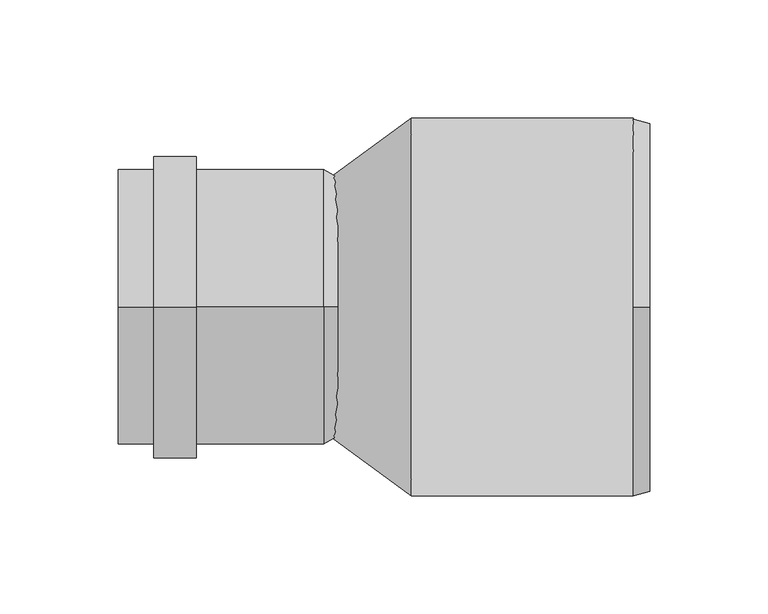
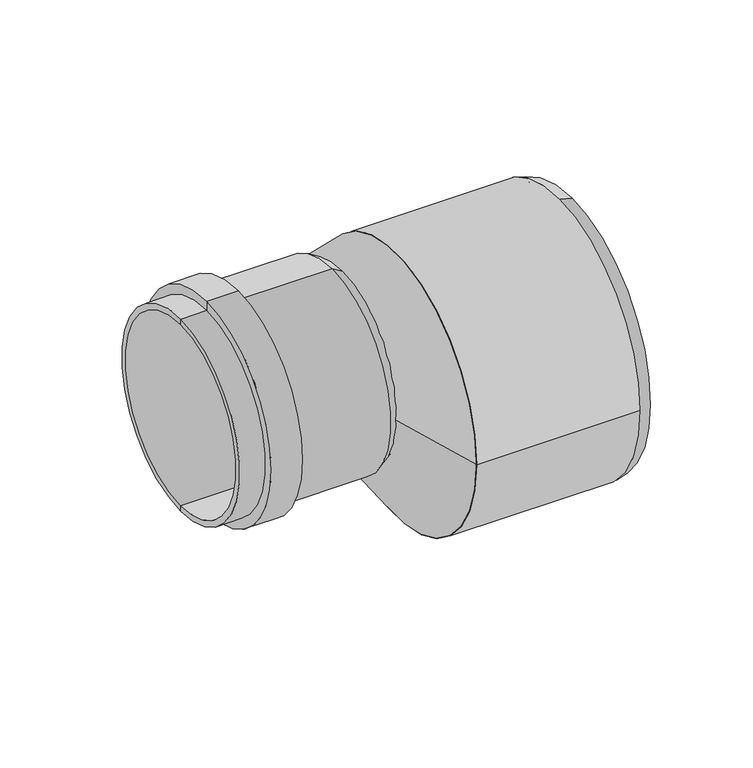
"""IFC4 building model written with IfcOpenShell, lengths in millimetres: pipe fitting geometry, OSMA_KG2000_PPKGR : Redukce nesouosá dlouhá."""

import ifcopenshell
import ifcopenshell.guid

model = None  # the IFC model being written
_history = None  # IfcOwnerHistory: only IFC2X3 demands one
_inside = {}  # id of a spatial element -> (the spatial element, [elements in it])
_under = {}  # id of a project, library or spatial element -> (it, [spatial elements below it])
_declared = {}  # id of a project -> (the project, [libraries it declares])
_typed = {}  # id of a type object -> (the type object, [elements of that type])
_made_of = {}  # id of a material, layer set ... -> (it, [elements and type objects made of it])


def new_model(schema):
    """Start an empty IFC model of exactly this schema.

    Asked for "IFC4X3", IfcOpenShell would pick the latest addendum, in which some entities
    have other attributes; the version numbers below select the first issue.
    IFC2X3 requires an IfcOwnerHistory on every rooted entity: one is made here for all.
    """
    global model, _history
    if schema == "IFC4X3":
        model = ifcopenshell.file(schema_version=(4, 3, 0, 0))
    else:
        model = ifcopenshell.file(schema=schema)
    _inside.clear()
    _under.clear()
    _declared.clear()
    _typed.clear()
    _made_of.clear()
    _history = None
    if model.schema == "IFC2X3":
        org = make("IfcOrganization", Name="unknown")
        user = make(
            "IfcPersonAndOrganization",
            ThePerson=make("IfcPerson", FamilyName="unknown"),
            TheOrganization=org,
        )
        app = make(
            "IfcApplication",
            ApplicationDeveloper=org,
            Version="unknown",
            ApplicationFullName="unknown",
            ApplicationIdentifier="unknown",
        )
        _history = make(
            "IfcOwnerHistory",
            OwningUser=user,
            OwningApplication=app,
            ChangeAction="ADDED",
            CreationDate=0,
        )
    return model


def make(cls, **values):
    """One entity of the class cls with the attributes given. An attribute that is None is left unset."""
    return model.create_entity(
        cls, **{name: value for name, value in values.items() if value is not None}
    )


def rooted(cls, **values):
    """An entity with a GlobalId (a new one), such as an element, a storey or a relation."""
    return make(cls, GlobalId=ifcopenshell.guid.new(), OwnerHistory=_history, **values)


def si_unit(unit_type, name, prefix=None):
    """IfcSIUnit, for example si_unit("LENGTHUNIT", "METRE", prefix="MILLI")."""
    return make("IfcSIUnit", UnitType=unit_type, Prefix=prefix, Name=name)


def assignment(units):
    """IfcUnitAssignment: the units of a project."""
    return None if units is None else make("IfcUnitAssignment", Units=units)


def point(xyz):
    """IfcCartesianPoint."""
    return None if xyz is None else make("IfcCartesianPoint", Coordinates=xyz)


def direction(xyz):
    """IfcDirection."""
    return None if xyz is None else make("IfcDirection", DirectionRatios=xyz)


def frame(location, z_axis=None, x_axis=None):
    """IfcAxis2Placement3D, a coordinate frame: its origin and axes. An axis left out is left unset."""
    return make(
        "IfcAxis2Placement3D",
        Location=point(location),
        Axis=direction(z_axis),
        RefDirection=direction(x_axis),
    )


def origin():
    """The frame at (0, 0, 0) with its axes left unset."""
    return frame((0.0, 0.0, 0.0))


def place(relative_to, where):
    """IfcLocalPlacement: puts the frame where relative to a parent placement (None: the world)."""
    return make(
        "IfcLocalPlacement", PlacementRelTo=relative_to, RelativePlacement=where
    )


def context(
    kind, dimensions, precision=None, world=None, true_north=None, identifier=None
):
    """IfcGeometricRepresentationContext, for example the 3D "Model" context."""
    return make(
        "IfcGeometricRepresentationContext",
        ContextIdentifier=identifier,
        ContextType=kind,
        CoordinateSpaceDimension=dimensions,
        Precision=precision,
        WorldCoordinateSystem=world,
        TrueNorth=true_north,
    )


def project(units=None, contexts=None):
    """IfcProject with its units and contexts."""
    return rooted(
        "IfcProject",
        Name="project",
        RepresentationContexts=contexts,
        UnitsInContext=assignment(units),
    )


def spatial(cls, under=None, at=None, **own):
    """A site, building, storey or space (cls), placed at a placement, below another one or the project."""
    s = rooted(cls, ObjectPlacement=at, **own)
    if under is not None:
        _under.setdefault(under.id(), (under, []))[1].append(s)
    return s


def polyline(points):
    """IfcPolyline through the points."""
    return make("IfcPolyline", Points=[point(p) for p in points])


def circle_curve(where, radius):
    """IfcCircle in the frame where."""
    return make("IfcCircle", Position=where, Radius=radius)


def shape(context_of_items, identifier, shape_type, items):
    """IfcShapeRepresentation: the items that make up one representation, for example the "Body"."""
    return make(
        "IfcShapeRepresentation",
        ContextOfItems=context_of_items,
        RepresentationIdentifier=identifier,
        RepresentationType=shape_type,
        Items=items,
    )


def source(mapping_origin, context_of_items, identifier, shape_type, items):
    """IfcRepresentationMap: a shape defined once, which mapped items show again and again."""
    return make(
        "IfcRepresentationMap",
        MappingOrigin=mapping_origin,
        MappedRepresentation=shape(context_of_items, identifier, shape_type, items),
    )


def transform(
    local_origin,
    x_axis=None,
    y_axis=None,
    z_axis=None,
    scale=None,
    scale2=None,
    scale3=None,
    uniform=True,
):
    """IfcCartesianTransformationOperator3D, or its non-uniform kind. x_axis, y_axis, z_axis: its Axis1, 2, 3."""
    if uniform:
        return make(
            "IfcCartesianTransformationOperator3D",
            Axis1=direction(x_axis),
            Axis2=direction(y_axis),
            LocalOrigin=point(local_origin),
            Scale=scale,
            Axis3=direction(z_axis),
        )
    return make(
        "IfcCartesianTransformationOperator3DnonUniform",
        Axis1=direction(x_axis),
        Axis2=direction(y_axis),
        LocalOrigin=point(local_origin),
        Scale=scale,
        Axis3=direction(z_axis),
        Scale2=scale2,
        Scale3=scale3,
    )


def mapped(mapping_source, mapping_target):
    """IfcMappedItem: shows the shape of a source again, moved by a transform."""
    return make(
        "IfcMappedItem", MappingSource=mapping_source, MappingTarget=mapping_target
    )


def made_of(thing, what):
    """Note that an element or type object is made of a material, layer set ...; save() writes the relation."""
    if what is not None:
        _made_of.setdefault(what.id(), (what, []))[1].append(thing)
    return thing


def element(
    cls,
    number,
    at=None,
    inside=None,
    cuts=None,
    type_object=None,
    material=None,
    context=None,
    identifier="Body",
    shape_type=None,
    held_by="IfcProductDefinitionShape",
    body=None,
    shapes=None,
    **own,
):
    """One element of the class cls, such as IfcWall. Its Tag is "e" and its number.

    at: its placement. inside: the storey or other place that contains it. cuts: it is an
    opening in that element (IfcRelVoidsElement). A single representation is given by context,
    identifier, shape_type and body (its items); several are given by shapes. held_by: the class
    of the entity that holds the representations. save() writes the other relations.
    """
    e = rooted(cls, Tag="e%d" % number, ObjectPlacement=at, **own)
    if body is not None:
        shapes = [shape(context, identifier, shape_type, body)]
    if shapes is not None:
        e.Representation = make(held_by, Representations=shapes)
    if inside is not None:
        _inside.setdefault(inside.id(), (inside, []))[1].append(e)
    if cuts is not None:
        rooted(
            "IfcRelVoidsElement", RelatingBuildingElement=cuts, RelatedOpeningElement=e
        )
    if type_object is not None:
        _typed.setdefault(type_object.id(), (type_object, []))[1].append(e)
    return made_of(e, material)


def aggregate(whole, parts):
    """IfcRelAggregates: a whole, such as a stair, and the parts it consists of."""
    return rooted("IfcRelAggregates", RelatingObject=whole, RelatedObjects=parts)


def save(model, path):
    """Write the relations noted so far, then the file.

    IfcRelAggregates (storeys below a building ...), IfcRelContainedInSpatialStructure (elements
    in a storey), IfcRelDefinesByType, IfcRelAssociatesMaterial and IfcRelDeclares: one each for
    every whole, place, type object, material and project.
    """
    for whole, parts in _under.values():
        aggregate(whole, parts)
    for where, things in _inside.values():
        rooted(
            "IfcRelContainedInSpatialStructure",
            RelatedElements=things,
            RelatingStructure=where,
        )
    for kind, things in _typed.values():
        rooted("IfcRelDefinesByType", RelatedObjects=things, RelatingType=kind)
    for what, things in _made_of.values():
        rooted("IfcRelAssociatesMaterial", RelatedObjects=things, RelatingMaterial=what)
    for by, libraries in _declared.values():
        rooted("IfcRelDeclares", RelatingContext=by, RelatedDefinitions=libraries)
    model.write(path)


def plane_surface(at):
    """IfcPlane: the flat surface through the origin of the frame at, square to its z axis."""
    return make("IfcPlane", Position=at)


def cylinder_surface(at, radius):
    """IfcCylindricalSurface: all points at the distance radius from the z axis of the frame at."""
    return make("IfcCylindricalSurface", Position=at, Radius=radius)


def revolved_surface(curve, axis_point, axis_direction):
    """IfcSurfaceOfRevolution: the curve turned about the line through axis_point along axis_direction."""
    return make(
        "IfcSurfaceOfRevolution",
        SweptCurve=make("IfcArbitraryOpenProfileDef", ProfileType="CURVE", Curve=curve),
        AxisPosition=make("IfcAxis1Placement", Location=point(axis_point), Axis=direction(axis_direction)),
    )


def spline_surface(u_degree, v_degree, points, u_multiplicities, v_multiplicities, u_knots, v_knots, weights=None):
    """IfcBSplineSurfaceWithKnots; with weights, IfcRationalBSplineSurfaceWithKnots. points: one row for each step in u."""
    own = dict(
        UDegree=u_degree,
        VDegree=v_degree,
        ControlPointsList=[[point(p) for p in row] for row in points],
        SurfaceForm="UNSPECIFIED",
        UClosed=False,
        VClosed=False,
        SelfIntersect=False,
        UMultiplicities=u_multiplicities,
        VMultiplicities=v_multiplicities,
        UKnots=u_knots,
        VKnots=v_knots,
        KnotSpec="UNSPECIFIED",
    )
    if weights is None:
        return make("IfcBSplineSurfaceWithKnots", **own)
    return make("IfcRationalBSplineSurfaceWithKnots", WeightsData=weights, **own)


def advanced_brep(points, edges, surfaces, faces):
    """IfcAdvancedBrep: a solid bounded by faces that lie on surfaces and meet in shared edges.

    An edge is (start, end): straight between two places in points (the first is 0);
    or (start, end, curve); or (start, end, curve, False) where it runs against its curve.
    A face is (place in surfaces, loops), or (place, loops, False) where it looks against
    its surface's normal. A loop lists edges by number (the first is 1), with a minus sign
    where the edge is run from its end to its start. The first loop is the outer one.
    """
    corners = [point(p) for p in points]
    vertices = [make("IfcVertexPoint", VertexGeometry=c) for c in corners]
    made = []
    for start, end, *more in edges:
        made.append(
            make(
                "IfcEdgeCurve",
                EdgeStart=vertices[start],
                EdgeEnd=vertices[end],
                EdgeGeometry=more[0] if more else make("IfcPolyline", Points=[corners[start], corners[end]]),
                SameSense=more[1] if len(more) > 1 else True,
            )
        )
    hull = []
    for where, loops, *sense in faces:
        bounds = []
        for j, loop in enumerate(loops):
            ring = [make("IfcOrientedEdge", EdgeElement=made[abs(k) - 1], Orientation=k > 0) for k in loop]
            bounds.append(
                make(
                    "IfcFaceOuterBound" if j == 0 else "IfcFaceBound",
                    Bound=make("IfcEdgeLoop", EdgeList=ring),
                    Orientation=True,
                )
            )
        hull.append(make("IfcAdvancedFace", Bounds=bounds, FaceSurface=surfaces[where], SameSense=sense[0] if sense else True))
    return make("IfcAdvancedBrep", Outer=make("IfcClosedShell", CfsFaces=hull))


def pipe_fitting_a38689ed(model_context):
    return source(origin(), model_context, "Body", "AdvancedBrep", [
        advanced_brep(
        [(-3.0, 0.0, 55.0), (-3.0, 0.0, -55.0), (-90.0, 0.0, -55.0), (-90.0, 0.0, 55.0), (-57.0, 0.0, 58.4), (-57.0, 0.0, -58.4), (-3.0, 0.0, -58.4), (-3.0, 0.0, 58.4), (-57.0, 0.0, -64.0), (-57.0, 0.0, 64.0), (-75.0, 0.0, -64.0), (-75.0, 0.0, 64.0), (-75.0, 0.0, -58.4), (-75.0, 0.0, 58.4), (-90.0, 0.0, -58.4), (-90.0, 0.0, 58.4), (3.0, 0.0, 51.6), (3.0, 0.0, -51.6), (3.0, 0.0, 55.0), (3.0, 0.0, -55.0)],
        [
            (0, 1, circle_curve(frame((-3.0, 0.0, 0.0), z_axis=(1.0, 0.0, 0.0), x_axis=(0.0, 0.0, -1.0)), 55.0)),
            (1, 2),
            (2, 3, circle_curve(frame((-90.0, 0.0, 0.0), z_axis=(-1.0, 0.0, 0.0), x_axis=(0.0, 0.0, -1.0)), 55.0)),
            (3, 0),
            (1, 0, circle_curve(frame((-3.0, 0.0, 0.0), z_axis=(1.0, 0.0, 0.0), x_axis=(0.0, 0.0, -1.0)), 55.0)),
            (3, 2, circle_curve(frame((-90.0, 0.0, 0.0), z_axis=(-1.0, 0.0, 0.0), x_axis=(0.0, 0.0, -1.0)), 55.0)),
            (4, 5, circle_curve(frame((-57.0, 0.0, 0.0), z_axis=(1.0, 0.0, 0.0), x_axis=(0.0, 0.0, -1.0)), 58.4)),
            (5, 6),
            (6, 7, circle_curve(frame((-3.0, 0.0, 0.0), z_axis=(-1.0, 0.0, 0.0), x_axis=(0.0, 0.0, -1.0)), 58.4)),
            (7, 4),
            (8, 9, circle_curve(frame((-57.0, 0.0, 0.0), z_axis=(1.0, 0.0, 0.0), x_axis=(0.0, 0.0, -1.0)), 64.0)),
            (9, 4),
            (4, 5, circle_curve(frame((-57.0, 0.0, 0.0), z_axis=(-1.0, 0.0, 0.0), x_axis=(0.0, 0.0, -1.0)), 58.4)),
            (5, 8),
            (10, 11, circle_curve(frame((-75.0, 0.0, 0.0), z_axis=(1.0, 0.0, 0.0), x_axis=(0.0, 0.0, -1.0)), 64.0)),
            (11, 9),
            (8, 10),
            (12, 13, circle_curve(frame((-75.0, 0.0, 0.0), z_axis=(1.0, 0.0, 0.0), x_axis=(0.0, 0.0, -1.0)), 58.4)),
            (13, 11),
            (10, 12),
            (14, 15, circle_curve(frame((-90.0, 0.0, 0.0), z_axis=(1.0, 0.0, 0.0), x_axis=(0.0, 0.0, -1.0)), 58.4)),
            (15, 13),
            (12, 14),
            (16, 17, circle_curve(frame((3.0, 0.0, 0.0), z_axis=(1.0, 0.0, 0.0), x_axis=(0.0, 0.0, -1.0)), 51.6)),
            (17, 1),
            (0, 16),
            (17, 16, circle_curve(frame((3.0, 0.0, 0.0), z_axis=(1.0, 0.0, 0.0), x_axis=(0.0, 0.0, -1.0)), 51.6)),
            (18, 19, circle_curve(frame((3.0, 0.0, 0.0), z_axis=(1.0, 0.0, 0.0), x_axis=(0.0, 0.0, -1.0)), 55.0)),
            (19, 17),
            (16, 18),
            (19, 18, circle_curve(frame((3.0, 0.0, 0.0), z_axis=(1.0, 0.0, 0.0), x_axis=(0.0, 0.0, -1.0)), 55.0)),
            (6, 19),
            (18, 7),
            (6, 7, circle_curve(frame((-3.0, 0.0, 0.0), z_axis=(1.0, 0.0, 0.0), x_axis=(0.0, 0.0, -1.0)), 58.4)),
            (9, 8, circle_curve(frame((-57.0, 0.0, 0.0), z_axis=(1.0, 0.0, 0.0), x_axis=(0.0, 0.0, -1.0)), 64.0)),
            (11, 10, circle_curve(frame((-75.0, 0.0, 0.0), z_axis=(1.0, 0.0, 0.0), x_axis=(0.0, 0.0, -1.0)), 64.0)),
            (13, 12, circle_curve(frame((-75.0, 0.0, 0.0), z_axis=(1.0, 0.0, 0.0), x_axis=(0.0, 0.0, -1.0)), 58.4)),
            (15, 14, circle_curve(frame((-90.0, 0.0, 0.0), z_axis=(1.0, 0.0, 0.0), x_axis=(0.0, 0.0, -1.0)), 58.4)),
            (2, 14),
            (15, 3),
        ],
        [
            revolved_surface(polyline([(-90.0, 0.0, -55.0), (-3.0, 0.0, -55.0)]), (-2759.4742198, 0.0, 0.0), (-1.0, 0.0, 0.0)),
            cylinder_surface(frame((-2759.4742198, 0.0, 0.0), z_axis=(-1.0, 0.0, 0.0), x_axis=(0.0, 0.0, -1.0)), 58.4),
            plane_surface(frame((-57.0, 0.0, 0.0), z_axis=(1.0, 0.0, 0.0), x_axis=(0.0, 0.0, -1.0))),
            cylinder_surface(frame((-2759.4742198, 0.0, 0.0), z_axis=(-1.0, 0.0, 0.0), x_axis=(0.0, 0.0, -1.0)), 64.0),
            plane_surface(frame((-75.0, 0.0, 0.0), z_axis=(-1.0, 0.0, 0.0), x_axis=(0.0, 0.0, -1.0))),
            revolved_surface(polyline([(-3.0, 0.0, -55.0), (3.0, 0.0, -51.6)]), (-2759.4742198, 0.0, 0.0), (-1.0, 0.0, 0.0)),
            plane_surface(frame((3.0, 0.0, 0.0), z_axis=(1.0, 0.0, 0.0), x_axis=(0.0, 0.0, -1.0))),
            revolved_surface(polyline([(3.0, 0.0, -55.0), (-3.0, 0.0, -58.4)]), (-2759.4742198, 0.0, 0.0), (-1.0, 0.0, 0.0)),
            plane_surface(frame((-90.0, 0.0, 0.0), z_axis=(-1.0, 0.0, 0.0), x_axis=(0.0, 0.0, -1.0))),
        ],
        [
            (0, [[1, 2, 3, 4]]),
            (0, [[5, -4, 6, -2]]),
            (1, [[7, 8, 9, 10]]),
            (2, [[11, 12, 13, 14]]),
            (3, [[15, 16, -11, 17]]),
            (4, [[18, 19, -15, 20]]),
            (1, [[21, 22, -18, 23]]),
            (5, [[24, 25, -1, 26]]),
            (5, [[27, -26, -5, -25]]),
            (6, [[28, 29, -24, 30]]),
            (6, [[31, -30, -27, -29]]),
            (7, [[-9, 32, -28, 33]]),
            (7, [[34, -33, -31, -32]]),
            (1, [[-13, -10, -34, -8]]),
            (2, [[35, -14, -7, -12]]),
            (3, [[36, -17, -35, -16]]),
            (4, [[37, -20, -36, -19]]),
            (1, [[38, -23, -37, -22]]),
            (8, [[-3, 39, -38, 40]]),
            (8, [[-6, -40, -21, -39]]),
        ],
    ),
        advanced_brep(
        [(135.0, 0.0, -103.1243557), (135.0, 0.0, 53.1243557), (135.0, 0.0, 50.1), (135.0, 0.0, -100.1), (128.0, 0.0, -105.0), (128.0, 80.0, -25.0), (128.0, 0.0, 55.0), (128.0, -80.0, -25.0), (128.0, 0.0, 50.1), (128.0, 0.0, -100.1), (34.0, 80.0, -25.0), (34.0, -80.0, -25.0)],
        [
            (0, 1, circle_curve(frame((135.0, 0.0, -25.0), z_axis=(1.0, 0.0, 0.0), x_axis=(0.0, 0.0, 1.0)), 78.1243557)),
            (1, 2),
            (2, 3, circle_curve(frame((135.0, 0.0, -25.0), z_axis=(-1.0, 0.0, 0.0), x_axis=(0.0, 0.0, 1.0)), 75.1)),
            (3, 0),
            (1, 0, circle_curve(frame((135.0, 0.0, -25.0), z_axis=(1.0, 0.0, 0.0), x_axis=(0.0, 0.0, 1.0)), 78.1243557)),
            (3, 2, circle_curve(frame((135.0, 0.0, -25.0), z_axis=(-1.0, 0.0, 0.0), x_axis=(0.0, 0.0, 1.0)), 75.1)),
            (0, 4),
            (4, 5, circle_curve(frame((128.0, 0.0, -25.0), z_axis=(1.0, 0.0, 0.0), x_axis=(0.0, 0.0, 1.0)), 80.0)),
            (5, 6, circle_curve(frame((128.0, 0.0, -25.0), z_axis=(1.0, 0.0, 0.0), x_axis=(0.0, 0.0, 1.0)), 80.0)),
            (6, 1),
            (6, 7, circle_curve(frame((128.0, 0.0, -25.0), z_axis=(1.0, 0.0, 0.0), x_axis=(0.0, 0.0, 1.0)), 80.0)),
            (7, 4, circle_curve(frame((128.0, 0.0, -25.0), z_axis=(1.0, 0.0, 0.0), x_axis=(0.0, 0.0, 1.0)), 80.0)),
            (2, 8),
            (8, 9, circle_curve(frame((128.0, 0.0, -25.0), z_axis=(-1.0, 0.0, 0.0), x_axis=(0.0, 0.0, 1.0)), 75.1)),
            (9, 3),
            (9, 8, circle_curve(frame((128.0, 0.0, -25.0), z_axis=(-1.0, 0.0, 0.0), x_axis=(0.0, 0.0, 1.0)), 75.1)),
            (10, 11, circle_curve(frame((34.0, 0.0, -25.0), z_axis=(-1.0, 0.0, 0.0), x_axis=(0.0, -1.0, 0.0)), 80.0)),
            (11, 10, circle_curve(frame((34.0, 0.0, -25.0), z_axis=(-1.0, 0.0, 0.0), x_axis=(0.0, -1.0, 0.0)), 80.0)),
            (11, 7),
            (5, 10),
        ],
        [
            plane_surface(frame((135.0, 0.0, -25.0), z_axis=(1.0, 0.0, 0.0), x_axis=(0.0, 0.0, 1.0))),
            revolved_surface(polyline([(135.0, 0.0, 53.1243557), (128.0, 0.0, 55.0)]), (52.4287569, 0.0, -25.0), (-1.0, 0.0, 0.0)),
            revolved_surface(polyline([(128.0, 0.0, 50.099999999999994), (135.0, 0.0, 50.099999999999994)]), (52.4287569, 0.0, -25.0), (-1.0, 0.0, 0.0)),
            plane_surface(frame((128.0, 0.0, 0.0), z_axis=(1.0, 0.0, 0.0), x_axis=(0.0, 0.0, 1.0))),
            plane_surface(frame((34.0, 0.0, 0.0), z_axis=(-1.0, 0.0, 0.0), x_axis=(0.0, 0.0, 1.0))),
            cylinder_surface(frame((128.0, 0.0, -25.0), z_axis=(1.0, 0.0, 0.0), x_axis=(0.0, -1.0, 0.0)), 80.0),
        ],
        [
            (0, [[1, 2, 3, 4]]),
            (0, [[-2, 5, -4, 6]]),
            (1, [[-1, 7, 8, 9, 10]]),
            (1, [[-5, -10, 11, 12, -7]]),
            (2, [[-3, 13, 14, 15]]),
            (2, [[-6, -15, 16, -13]]),
            (3, [[-14, -16]]),
            (4, [[17, 18]]),
            (5, [[-18, 19, -11, -9, 20]]),
            (5, [[-17, -20, -8, -12, -19]]),
        ],
    ),
        advanced_brep(
        [(0.0, 55.0, 0.0), (0.0, -55.0, 0.0), (34.0, 80.0, -25.0), (34.0, -80.0, -25.0)],
        [
            (0, 1, circle_curve(frame((0.0, 0.0, 0.0), z_axis=(-1.0, 0.0, 0.0), x_axis=(0.0, -1.0, 0.0)), 55.0)),
            (1, 0, circle_curve(frame((0.0, 0.0, 0.0), z_axis=(-1.0, 0.0, 0.0), x_axis=(0.0, -1.0, 0.0)), 55.0)),
            (2, 3, circle_curve(frame((34.0, 0.0, -25.0), z_axis=(1.0, 0.0, 0.0), x_axis=(0.0, -1.0, 0.0)), 80.0)),
            (3, 2, circle_curve(frame((34.0, 0.0, -25.0), z_axis=(1.0, 0.0, 0.0), x_axis=(0.0, -1.0, 0.0)), 80.0)),
            (3, 1),
            (0, 2),
        ],
        [
            plane_surface(frame((0.0, 0.0, 0.0), z_axis=(-1.0, 0.0, 0.0), x_axis=(0.0, 0.0, -1.0))),
            plane_surface(frame((34.0, 0.0, -25.0), z_axis=(1.0, 0.0, 0.0), x_axis=(0.0, 0.0, -1.0))),
            spline_surface(2, 1, [[(34.0, 80.0, -25.0), (0.0, 55.0, 0.0)], [(34.0, 80.0, -105.0), (0.0, 55.0, -55.0)], [(34.0, 0.0, -105.0), (0.0, 0.0, -55.0)], [(34.0, -80.0, -105.0), (0.0, -55.0, -55.0)], [(34.0, -80.0, -25.0), (0.0, -55.0, 0.0)]], [3, 2, 3], [2, 2], [0.0, 1.0, 2.0], [0.0, 1.0], weights=[[1.0, 1.0], [0.7071067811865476, 0.7071067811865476], [1.0, 1.0], [0.7071067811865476, 0.7071067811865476], [1.0, 1.0]]),
            spline_surface(2, 1, [[(34.0, -80.0, -25.0), (0.0, -55.0, 0.0)], [(34.0, -80.0, 55.0), (0.0, -55.0, 55.0)], [(34.0, 0.0, 55.0), (0.0, 0.0, 55.0)], [(34.0, 80.0, 55.0), (0.0, 55.0, 55.0)], [(34.0, 80.0, -25.0), (0.0, 55.0, 0.0)]], [3, 2, 3], [2, 2], [0.0, 1.0, 2.0], [0.0, 1.0], weights=[[1.0, 1.0], [0.7071067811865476, 0.7071067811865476], [1.0, 1.0], [0.7071067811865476, 0.7071067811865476], [1.0, 1.0]]),
        ],
        [
            (0, [[1, 2]]),
            (1, [[3, 4]]),
            (2, [[-4, 5, -1, 6]]),
            (3, [[-3, -6, -2, -5]]),
        ],
    ),
    ])


if __name__ == "__main__":
    model = new_model("IFC4")
    model_context = context("Model", 3, world=origin())
    ifc_project = project(units=[si_unit("LENGTHUNIT", "METRE", prefix="MILLI")], contexts=[model_context])
    site = spatial("IfcSite", under=ifc_project)
    building = spatial("IfcBuilding", under=site)
    placement = place(None, origin())
    pipe_fitting_shape = pipe_fitting_a38689ed(model_context)
    element("IfcPipeFitting", 1, ObjectType="OSMA_KG2000_PPKGR : Redukce nesouosá dlouhá", at=placement, inside=building, context=model_context, shape_type="MappedRepresentation", body=[
        mapped(pipe_fitting_shape, transform((0.0, 0.0, 0.0), x_axis=(1.0, 0.0, 0.0), y_axis=(0.0, 1.0, 0.0), z_axis=(0.0, 0.0, 1.0))),
    ])
    save(model, "model.ifc")
